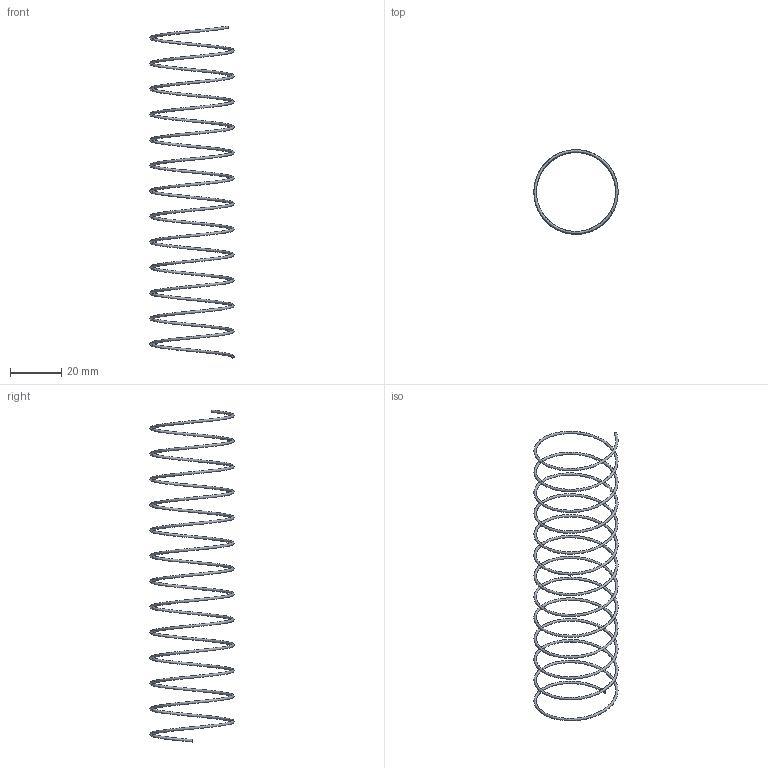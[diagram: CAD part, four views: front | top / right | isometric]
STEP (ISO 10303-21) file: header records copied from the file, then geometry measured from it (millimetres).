
FILE_DESCRIPTION( ( 'STEP AP203' ), '1' );
FILE_NAME( 'D:/Cuma/25 06 2009/D60.01/D60.01_32/D60.01_32130.step', '2003-02-03T14:17:09', ( ' ' ), ( ' ' ), 'XStep 1.0', ' ', ' ' );
FILE_SCHEMA( ( 'CONFIG_CONTROL_DESIGN' ) );
Length unit declared in the file: metre
Products named in the file (1): 1
Bounding box: 33 x 33 x 130.16 mm (x, y, z)
Volume: 1009.9 mm3; surface area: 4071.2 mm2
Topology: 1 solids, 1 shells, 3 faces, 3 edges, 2 vertices
Faces by surface type: plane 2, bspline 1
Entity records: 2183 total; most frequent: CARTESIAN_POINT 2101, DIRECTION 6, CC_DESIGN_PERSON_AND_ORGANIZATION_ASSIGNMENT 5, PERSON_AND_ORGANIZATION_ROLE 4, FACE_OUTER_BOUND 4, EDGE_LOOP 4, ORIENTED_EDGE 4, AXIS2_PLACEMENT_3D 3
